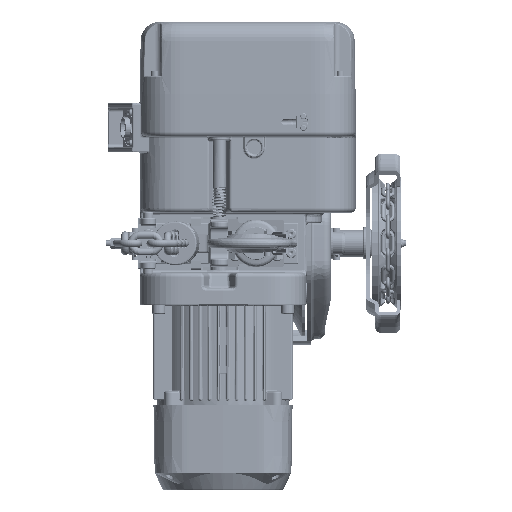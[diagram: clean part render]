
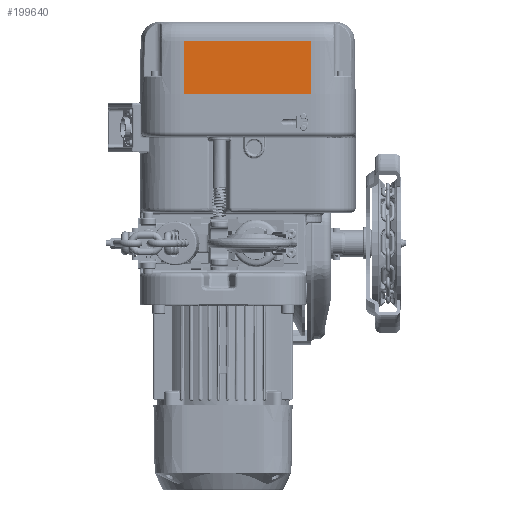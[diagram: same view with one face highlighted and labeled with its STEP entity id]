
A CAD part, front view. The second image highlights one B-rep face of the part: STEP entity #199640.
In plain terms, the highlighted planar face has unit normal (0, -1, 0.018).
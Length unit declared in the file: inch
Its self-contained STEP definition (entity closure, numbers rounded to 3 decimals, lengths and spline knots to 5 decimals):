
#9214 = VERTEX_POINT ( 'NONE', #162253 ) ;
#16894 = CARTESIAN_POINT ( 'NONE',  ( -3.4341, -4.74409, 0. ) ) ;
#37389 = DIRECTION ( 'NONE',  ( -1., 0., 0. ) ) ;
#60216 = EDGE_LOOP ( 'NONE', ( #269127, #68575, #232081, #218853 ) ) ;
#68575 = ORIENTED_EDGE ( 'NONE', *, *, #173626, .T. ) ;
#80005 = CARTESIAN_POINT ( 'NONE',  ( 3.4341, -4.69293, 2.93125 ) ) ;
#97857 = PLANE ( 'NONE',  #152868 ) ;
#99337 = LINE ( 'NONE', #16894, #131143 ) ;
#102953 = VERTEX_POINT ( 'NONE', #126027 ) ;
#115568 = DIRECTION ( 'NONE',  ( -1., 0., 0. ) ) ;
#118560 = DIRECTION ( 'NONE',  ( 0., -0.017, -1. ) ) ;
#122436 = LINE ( 'NONE', #125186, #128278 ) ;
#122886 = VECTOR ( 'NONE', #115568, 39.37008 ) ;
#123856 = FACE_OUTER_BOUND ( 'NONE', #60216, .T. ) ;
#125186 = CARTESIAN_POINT ( 'NONE',  ( 0., -4.74409, 0. ) ) ;
#126027 = CARTESIAN_POINT ( 'NONE',  ( -3.4341, -4.74409, 0. ) ) ;
#128278 = VECTOR ( 'NONE', #37389, 39.37008 ) ;
#131143 = VECTOR ( 'NONE', #118560, 39.37008 ) ;
#142003 = DIRECTION ( 'NONE',  ( 0., -0.017, -1. ) ) ;
#144519 = DIRECTION ( 'NONE',  ( 0., -1., 0.017 ) ) ;
#152868 = AXIS2_PLACEMENT_3D ( 'NONE', #266837, #144519, #202247 ) ;
#162253 = CARTESIAN_POINT ( 'NONE',  ( -3.4341, -4.69293, 2.93125 ) ) ;
#165324 = LINE ( 'NONE', #225754, #229823 ) ;
#173626 = EDGE_CURVE ( 'NONE', #199620, #9214, #215941, .T. ) ;
#187011 = CARTESIAN_POINT ( 'NONE',  ( 3.4341, -4.74409, 0. ) ) ;
#187576 = EDGE_CURVE ( 'NONE', #199620, #247936, #165324, .T. ) ;
#199620 = VERTEX_POINT ( 'NONE', #80005 ) ;
#199640 = ADVANCED_FACE ( 'NONE', ( #123856 ), #97857, .T. ) ;
#202247 = DIRECTION ( 'NONE',  ( 0., -0.017, -1. ) ) ;
#204116 = EDGE_CURVE ( 'NONE', #247936, #102953, #122436, .T. ) ;
#214580 = CARTESIAN_POINT ( 'NONE',  ( 0., -4.69293, 2.93125 ) ) ;
#215941 = LINE ( 'NONE', #214580, #122886 ) ;
#218853 = ORIENTED_EDGE ( 'NONE', *, *, #204116, .F. ) ;
#225754 = CARTESIAN_POINT ( 'NONE',  ( 3.4341, -4.74409, 0. ) ) ;
#229823 = VECTOR ( 'NONE', #142003, 39.37008 ) ;
#232081 = ORIENTED_EDGE ( 'NONE', *, *, #251847, .T. ) ;
#247936 = VERTEX_POINT ( 'NONE', #187011 ) ;
#251847 = EDGE_CURVE ( 'NONE', #9214, #102953, #99337, .T. ) ;
#266837 = CARTESIAN_POINT ( 'NONE',  ( 0., -4.74409, 0. ) ) ;
#269127 = ORIENTED_EDGE ( 'NONE', *, *, #187576, .F. ) ;
